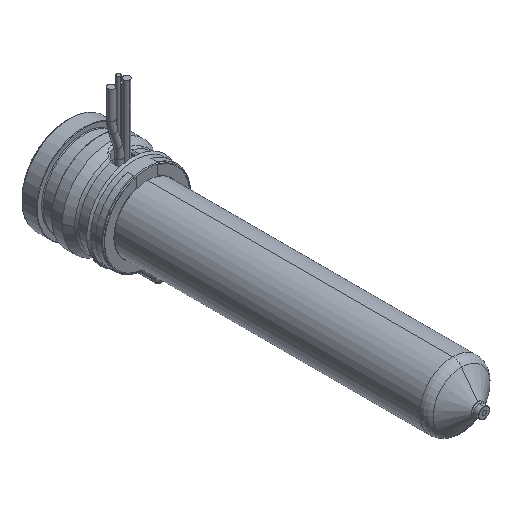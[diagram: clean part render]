
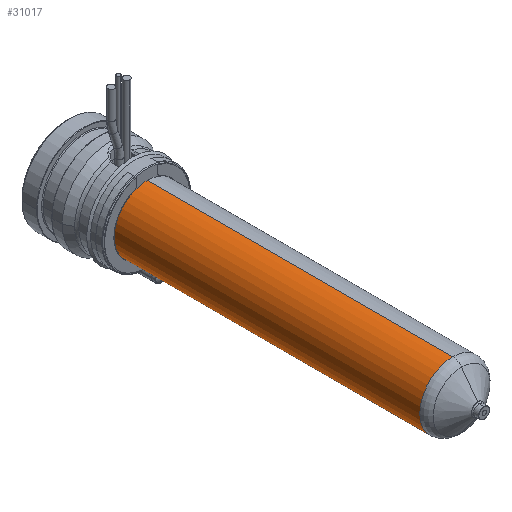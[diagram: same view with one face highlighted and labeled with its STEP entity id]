
A CAD part, isometric view. The second image highlights one B-rep face of the part: STEP entity #31017.
In plain terms, the highlighted cylindrical face has radius 9 mm (diameter 18 mm), a partial arc.
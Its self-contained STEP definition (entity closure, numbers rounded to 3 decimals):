
#30579=CARTESIAN_POINT('',(0.,-105.471,0.));
#30580=DIRECTION('',(0.,-1.,0.));
#30581=DIRECTION('',(0.,0.,1.));
#30582=AXIS2_PLACEMENT_3D('',#30579,#30580,#30581);
#30611=DIRECTION('',(0.,-1.,0.));
#30612=VECTOR('',#30611,83.471);
#30613=CARTESIAN_POINT('',(0.,-22.,9.));
#30614=LINE('',#30613,#30612);
#30626=DIRECTION('',(0.,-1.,0.));
#30627=VECTOR('',#30626,83.471);
#30628=CARTESIAN_POINT('',(0.,-22.,-9.));
#30629=LINE('',#30628,#30627);
#30633=CARTESIAN_POINT('',(0.,-22.,0.));
#30634=DIRECTION('',(0.,-1.,0.));
#30635=DIRECTION('',(0.,0.,1.));
#30636=AXIS2_PLACEMENT_3D('',#30633,#30634,#30635);
#30833=CARTESIAN_POINT('',(0.,-22.,9.));
#30834=CARTESIAN_POINT('',(0.,-105.471,9.));
#30835=VERTEX_POINT('',#30833);
#30836=VERTEX_POINT('',#30834);
#30845=CARTESIAN_POINT('',(0.,-22.,-9.));
#30846=CARTESIAN_POINT('',(0.,-105.471,-9.));
#30847=VERTEX_POINT('',#30845);
#30848=VERTEX_POINT('',#30846);
#31005=CARTESIAN_POINT('',(0.,-13.2,0.));
#31006=DIRECTION('',(0.,-1.,0.));
#31007=DIRECTION('',(0.,0.,1.));
#31008=AXIS2_PLACEMENT_3D('',#31005,#31006,#31007);
#31009=CYLINDRICAL_SURFACE('',#31008,9.);
#31010=ORIENTED_EDGE('',*,*,#30995,.T.);
#31011=ORIENTED_EDGE('',*,*,#30972,.T.);
#31012=ORIENTED_EDGE('',*,*,#30999,.F.);
#31014=ORIENTED_EDGE('',*,*,#31013,.F.);
#31015=EDGE_LOOP('',(#31010,#31011,#31012,#31014));
#31016=FACE_OUTER_BOUND('',#31015,.F.);
#31017=ADVANCED_FACE('',(#31016),#31009,.T.);
#30583=CIRCLE('',#30582,9.);
#30637=CIRCLE('',#30636,9.);
#30972=EDGE_CURVE('',#30836,#30848,#30583,.T.);
#30995=EDGE_CURVE('',#30835,#30836,#30614,.T.);
#30999=EDGE_CURVE('',#30847,#30848,#30629,.T.);
#31013=EDGE_CURVE('',#30835,#30847,#30637,.T.);
